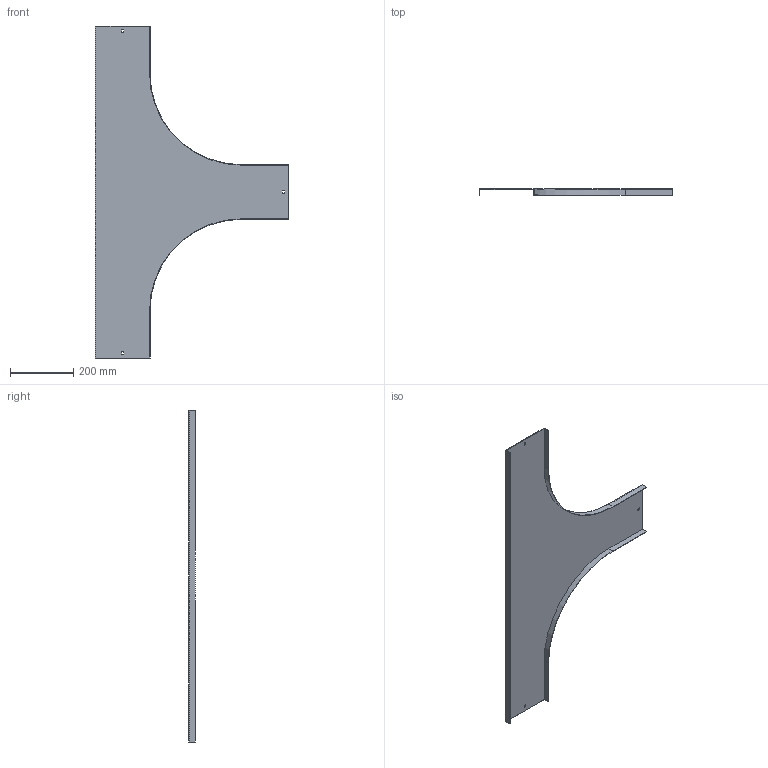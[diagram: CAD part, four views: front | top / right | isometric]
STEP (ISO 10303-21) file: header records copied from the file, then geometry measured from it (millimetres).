
FILE_DESCRIPTION (( 'STEP AP214' ), '1' );
FILE_NAME ('15N3P150.step', '2025-02-21T13:55:33', ( '' ), ( '' ), 'SwSTEP 2.0', 'SolidWorks 2023', '' );
FILE_SCHEMA (( 'AUTOMOTIVE_DESIGN' ));
Length unit declared in the file: millimetre
Products named in the file (1): 15N3P150
Bounding box: 611.5 x 20 x 1050 mm (x, y, z)
Volume: 510592 mm3; surface area: 685708.3 mm2
Topology: 1 solids, 1 shells, 34 faces, 96 edges, 64 vertices
Faces by surface type: plane 30, cylinder 4
Entity records: 1123 total; most frequent: CARTESIAN_POINT 195, ORIENTED_EDGE 192, DIRECTION 174, EDGE_CURVE 96, VECTOR 88, LINE 88, VERTEX_POINT 64, AXIS2_PLACEMENT_3D 43
